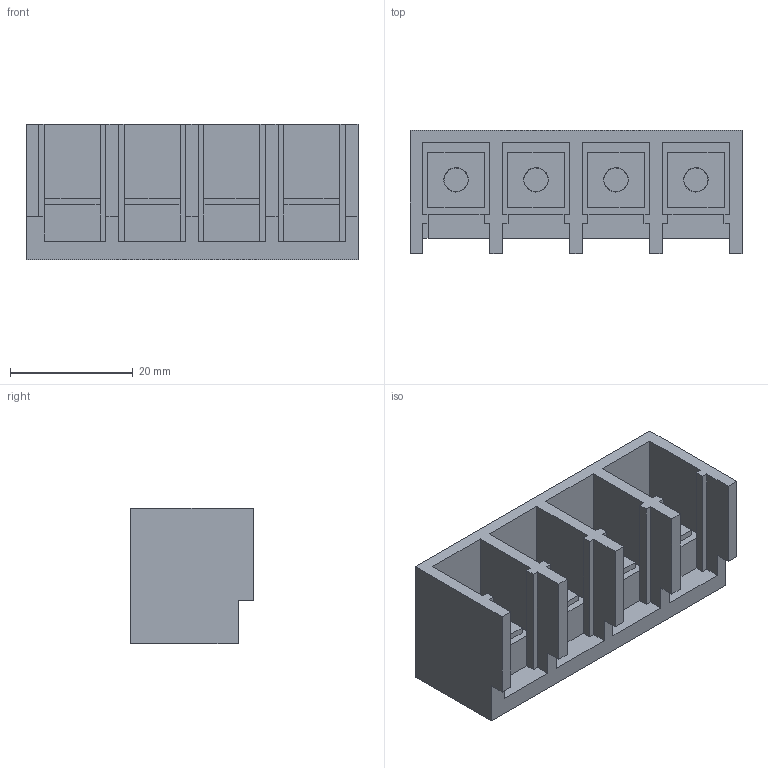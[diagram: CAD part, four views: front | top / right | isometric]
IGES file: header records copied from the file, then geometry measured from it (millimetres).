
Start section:  PTC IGES file: j4-700-te.igs
Global section: file name: j4-700-te.igs; native system: Pro/ENGINEER by Parametric Technology Corporation; preprocessor: 2010160; author: CV86875; organization: Unknown; date: 20121031.194046; units: millimetre
Bounding box: 54 x 20 x 22 mm (x, y, z)
Volume: 11373.9 mm3; surface area: 8055.8 mm2
Topology: 1 solids, 1 shells, 105 faces, 276 edges, 181 vertices
Faces by surface type: bspline 105
